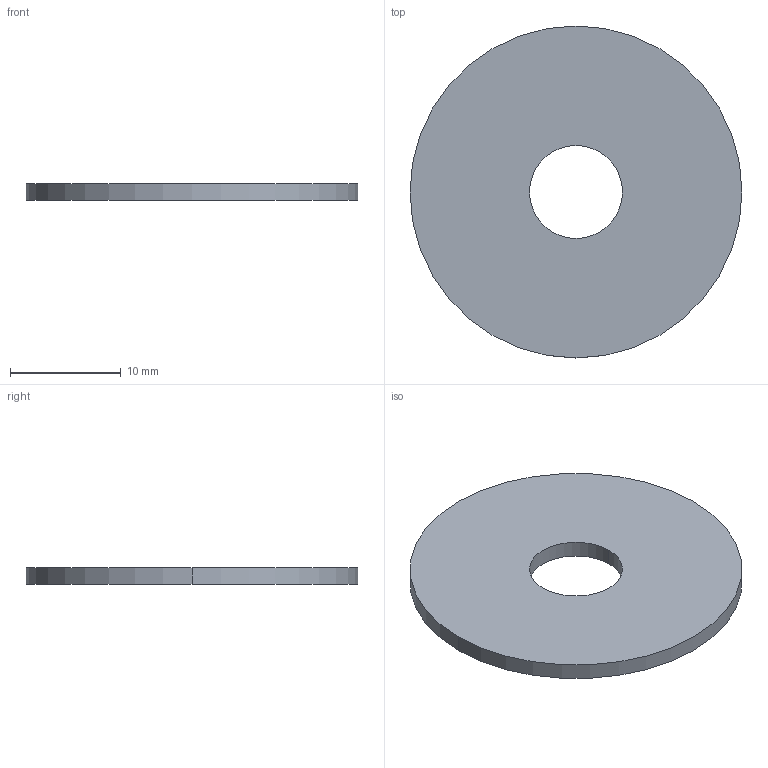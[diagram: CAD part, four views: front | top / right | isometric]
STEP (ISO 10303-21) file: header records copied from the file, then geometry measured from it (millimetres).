
FILE_DESCRIPTION (( 'STEP AP203' ), '1' );
FILE_NAME ('P0333.080-030-A4.step', '2018-12-17T19:08:44', ( '' ), ( '' ), 'SwSTEP 2.0', 'SolidWorks 2017', '' );
FILE_SCHEMA (( 'CONFIG_CONTROL_DESIGN' ));
Length unit declared in the file: millimetre
Products named in the file (1): P0333.080-030-A4
Bounding box: 30 x 30 x 1.5 mm (x, y, z)
Volume: 977.2 mm3; surface area: 1483.8 mm2
Topology: 1 solids, 1 shells, 6 faces, 12 edges, 8 vertices
Faces by surface type: cylinder 4, plane 2
Entity records: 245 total; most frequent: DIRECTION 34, CARTESIAN_POINT 27, ORIENTED_EDGE 24, AXIS2_PLACEMENT_3D 15, EDGE_CURVE 12, CIRCLE 8, EDGE_LOOP 8, VERTEX_POINT 8
